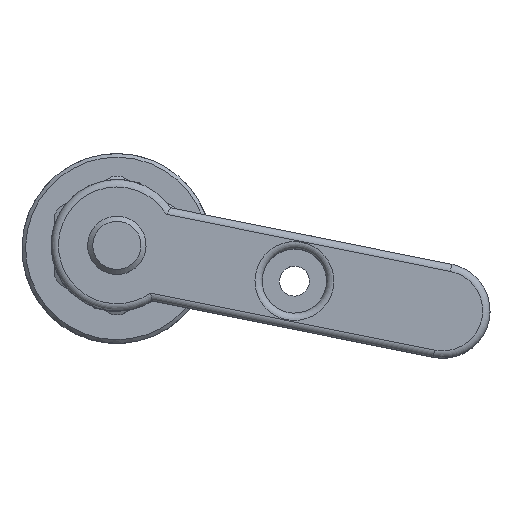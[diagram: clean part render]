
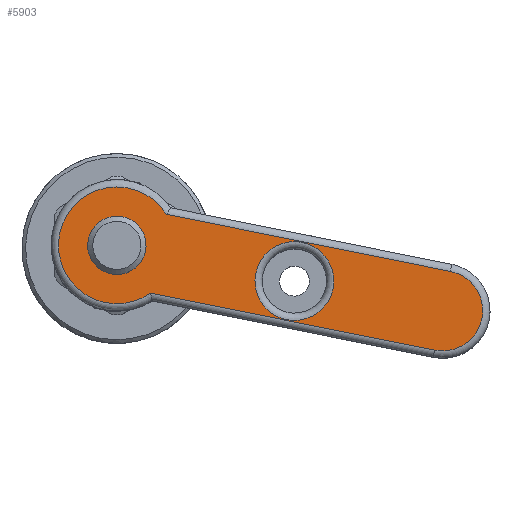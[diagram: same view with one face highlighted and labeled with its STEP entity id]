
A CAD part, top view. The second image highlights one B-rep face of the part: STEP entity #5903.
In plain terms, the highlighted planar face has unit normal (0, 0, 1).
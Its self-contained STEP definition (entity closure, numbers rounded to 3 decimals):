
#5836=CARTESIAN_POINT('',(19.02,-3.823,18.5));
#5837=VERTEX_POINT('',#5836);
#5838=CARTESIAN_POINT('',(24.314,-4.887,18.5));
#5839=DIRECTION('',(0.0,0.0,1.0));
#5840=DIRECTION('',(-0.98,0.197,0.0));
#5841=AXIS2_PLACEMENT_3D('',#5838,#5839,#5840);
#5842=CIRCLE('',#5841,5.4);
#5843=EDGE_CURVE('',#5837,#5837,#5842,.T.);
#5848=CARTESIAN_POINT('',(0.61,-0.433,18.5));
#5849=DIRECTION('',(0.0,0.0,1.0));
#5850=DIRECTION('',(0.98,-0.197,0.0));
#5851=AXIS2_PLACEMENT_3D('',#5848,#5849,#5850);
#5852=PLANE('',#5851);
#5853=CARTESIAN_POINT('',(4.612,-6.537,18.5));
#5854=VERTEX_POINT('',#5853);
#5855=CARTESIAN_POINT('',(6.779,4.247,18.5));
#5856=VERTEX_POINT('',#5855);
#5857=CARTESIAN_POINT('',(0.,0.,18.5));
#5858=DIRECTION('',(0.0,0.0,-1.0));
#5859=DIRECTION('',(-0.98,0.197,0.0));
#5860=AXIS2_PLACEMENT_3D('',#5857,#5858,#5859);
#5861=CIRCLE('',#5860,8.);
#5862=EDGE_CURVE('',#5854,#5856,#5861,.T.);
#5863=ORIENTED_EDGE('',*,*,#5862,.F.);
#5864=CARTESIAN_POINT('',(43.524,-14.358,18.5));
#5865=VERTEX_POINT('',#5864);
#5866=CARTESIAN_POINT('',(43.524,-14.358,18.5));
#5867=DIRECTION('',(-0.98,0.197,0.0));
#5868=VECTOR('',#5867,39.691);
#5869=LINE('',#5866,#5868);
#5870=EDGE_CURVE('',#5865,#5854,#5869,.T.);
#5871=ORIENTED_EDGE('',*,*,#5870,.F.);
#5872=CARTESIAN_POINT('',(45.692,-3.573,18.5));
#5873=VERTEX_POINT('',#5872);
#5874=CARTESIAN_POINT('',(44.608,-8.965,18.5));
#5875=DIRECTION('',(0.0,0.0,-1.0));
#5876=DIRECTION('',(0.98,-0.197,0.0));
#5877=AXIS2_PLACEMENT_3D('',#5874,#5875,#5876);
#5878=CIRCLE('',#5877,5.5);
#5879=EDGE_CURVE('',#5873,#5865,#5878,.T.);
#5880=ORIENTED_EDGE('',*,*,#5879,.F.);
#5881=CARTESIAN_POINT('',(6.779,4.247,18.5));
#5882=DIRECTION('',(0.98,-0.197,0.0));
#5883=VECTOR('',#5882,39.691);
#5884=LINE('',#5881,#5883);
#5885=EDGE_CURVE('',#5856,#5873,#5884,.T.);
#5886=ORIENTED_EDGE('',*,*,#5885,.F.);
#5887=EDGE_LOOP('',(#5863,#5871,#5880,#5886));
#5888=FACE_OUTER_BOUND('',#5887,.T.);
#5889=CARTESIAN_POINT('',(-3.922,0.788,18.5));
#5890=VERTEX_POINT('',#5889);
#5891=CARTESIAN_POINT('',(0.0,0.0,18.5));
#5892=DIRECTION('',(0.0,0.0,-1.0));
#5893=DIRECTION('',(-0.98,0.197,0.0));
#5894=AXIS2_PLACEMENT_3D('',#5891,#5892,#5893);
#5895=CIRCLE('',#5894,4.);
#5896=EDGE_CURVE('',#5890,#5890,#5895,.T.);
#5897=ORIENTED_EDGE('',*,*,#5896,.T.);
#5898=EDGE_LOOP('',(#5897));
#5899=FACE_BOUND('',#5898,.T.);
#5900=ORIENTED_EDGE('',*,*,#5843,.F.);
#5901=EDGE_LOOP('',(#5900));
#5902=FACE_BOUND('',#5901,.T.);
#5903=ADVANCED_FACE('',(#5888,#5899,#5902),#5852,.T.);
